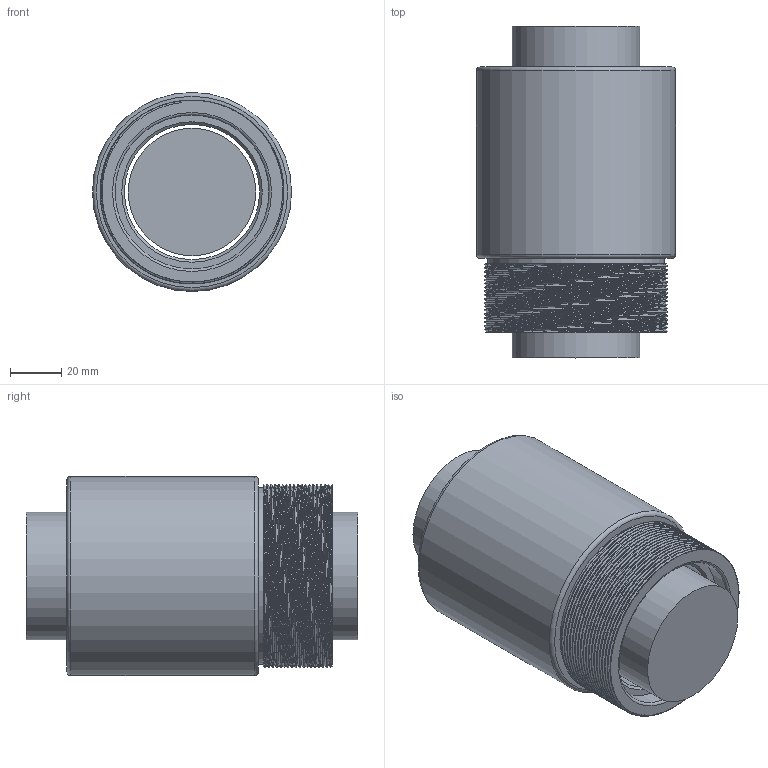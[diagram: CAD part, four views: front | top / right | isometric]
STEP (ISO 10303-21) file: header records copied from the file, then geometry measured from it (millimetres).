
FILE_DESCRIPTION(/* description */ (''),/* implementation_level */ '2;1');
FILE_NAME(/* name */ '5010.prt.step',/* time_stamp */ '2008-12-05T09:44:53+08:00',/* author */ (''),/* organization */ (''),/* preprocessor_version */ 'ST-DEVELOPER v11',/* originating_system */ 'SIEMENS UGS NX 6.0',/* authorisation */ '');
FILE_SCHEMA (('AUTOMOTIVE_DESIGN { 1 0 10303 214 1 1 1 1 }'));
Length unit declared in the file: millimetre
Products named in the file (1): 5010
Bounding box: 78 x 130 x 78 mm (x, y, z)
Volume: 486318 mm3; surface area: 74926.2 mm2
Topology: 2 solids, 2 shells, 24 faces, 46 edges, 30 vertices
Faces by surface type: cylinder 8, plane 8, torus 4, bspline 2, cone 2
Full cylindrical faces by diameter (mm): 49.95 x1, 53 x1, 60.3 x2, 69 x1, 78 x1
Entity records: 4384 total; most frequent: CARTESIAN_POINT 3933, DIRECTION 90, ORIENTED_EDGE 60, AXIS2_PLACEMENT_3D 45, EDGE_LOOP 42, FACE_BOUND 36, EDGE_CURVE 30, VERTEX_POINT 26
